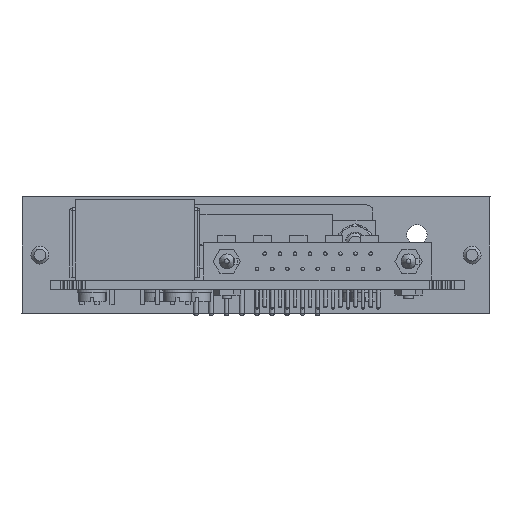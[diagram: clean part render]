
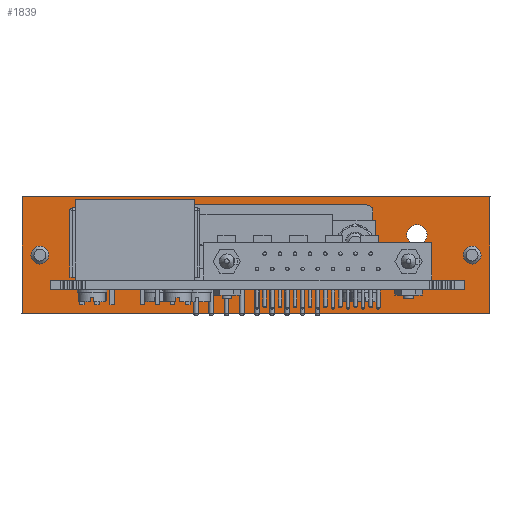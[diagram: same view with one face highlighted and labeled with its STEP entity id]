
A CAD part, left-side view. The second image highlights one B-rep face of the part: STEP entity #1839.
In plain terms, the highlighted planar face has unit normal (-1, 0, 0).
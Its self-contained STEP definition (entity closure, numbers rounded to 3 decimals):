
#1839=ADVANCED_FACE('',(#16015,#16017,#16019,#16021,#16023,#16025),#16027,.T.);
#16015=FACE_BOUND('',#16016,.T.);
#16016=EDGE_LOOP('',(#27494,#27495,#27496,#27497));
#16017=FACE_BOUND('',#16018,.T.);
#16018=EDGE_LOOP('',(#27498,#27499,#27500,#27501,#27502,#27503,#27504,#27505));
#16019=FACE_BOUND('',#16020,.T.);
#16020=EDGE_LOOP('',(#27506));
#16021=FACE_BOUND('',#16022,.T.);
#16022=EDGE_LOOP('',(#27507));
#16023=FACE_BOUND('',#16024,.T.);
#16024=EDGE_LOOP('',(#27508));
#16025=FACE_BOUND('',#16026,.T.);
#16026=EDGE_LOOP('',(#27509));
#16027=PLANE('',#16028);
#16028=AXIS2_PLACEMENT_3D('',#16029,#16030,#16031);
#16029=CARTESIAN_POINT('',(-86.106,51.439,4.98));
#16030=DIRECTION('',(-1.,0.,0.));
#16031=DIRECTION('',(0.,0.,1.));
#27494=ORIENTED_EDGE('',*,*,#34695,.T.);
#27495=ORIENTED_EDGE('',*,*,#34696,.T.);
#27496=ORIENTED_EDGE('',*,*,#34697,.T.);
#27497=ORIENTED_EDGE('',*,*,#34698,.T.);
#27498=ORIENTED_EDGE('',*,*,#34692,.T.);
#27499=ORIENTED_EDGE('',*,*,#34446,.T.);
#27500=ORIENTED_EDGE('',*,*,#34442,.T.);
#27501=ORIENTED_EDGE('',*,*,#34440,.T.);
#27502=ORIENTED_EDGE('',*,*,#34672,.T.);
#27503=ORIENTED_EDGE('',*,*,#34699,.T.);
#27504=ORIENTED_EDGE('',*,*,#34700,.T.);
#27505=ORIENTED_EDGE('',*,*,#34701,.T.);
#27506=ORIENTED_EDGE('',*,*,#34702,.T.);
#27507=ORIENTED_EDGE('',*,*,#34703,.T.);
#27508=ORIENTED_EDGE('',*,*,#34704,.T.);
#27509=ORIENTED_EDGE('',*,*,#34705,.T.);
#34440=EDGE_CURVE('',#38623,#38621,#38624,.T.);
#34442=EDGE_CURVE('',#38626,#38623,#38627,.T.);
#34446=EDGE_CURVE('',#38633,#38626,#38634,.T.);
#34672=EDGE_CURVE('',#38621,#38993,#38994,.T.);
#34692=EDGE_CURVE('',#39029,#38633,#39030,.T.);
#34695=EDGE_CURVE('',#39034,#39035,#39036,.T.);
#34696=EDGE_CURVE('',#39035,#39037,#39038,.T.);
#34697=EDGE_CURVE('',#39037,#39039,#39040,.T.);
#34698=EDGE_CURVE('',#39039,#39034,#39041,.T.);
#34699=EDGE_CURVE('',#38993,#39042,#39043,.T.);
#34700=EDGE_CURVE('',#39042,#39044,#39045,.T.);
#34701=EDGE_CURVE('',#39044,#39029,#39046,.T.);
#34702=EDGE_CURVE('',#39047,#39047,#39048,.T.);
#34703=EDGE_CURVE('',#39049,#39049,#39050,.T.);
#34704=EDGE_CURVE('',#39051,#39051,#39052,.T.);
#34705=EDGE_CURVE('',#39053,#39053,#39054,.T.);
#38621=VERTEX_POINT('',#46169);
#38623=VERTEX_POINT('',#46173);
#38624=CIRCLE('',#46174,1.);
#38626=VERTEX_POINT('',#46181);
#38627=LINE('',#46182,#46183);
#38633=VERTEX_POINT('',#46198);
#38634=CIRCLE('',#46199,1.);
#38993=VERTEX_POINT('',#47068);
#38994=LINE('',#47069,#47070);
#39029=VERTEX_POINT('',#47150);
#39030=LINE('',#47151,#47152);
#39034=VERTEX_POINT('',#47161);
#39035=VERTEX_POINT('',#47162);
#39036=LINE('',#47163,#47164);
#39037=VERTEX_POINT('',#47166);
#39038=LINE('',#47167,#47168);
#39039=VERTEX_POINT('',#47170);
#39040=LINE('',#47171,#47172);
#39041=LINE('',#47174,#47175);
#39042=VERTEX_POINT('',#47177);
#39043=CIRCLE('',#47178,1.);
#39044=VERTEX_POINT('',#47182);
#39045=LINE('',#47183,#47184);
#39046=CIRCLE('',#47186,1.);
#39047=VERTEX_POINT('',#47190);
#39048=CIRCLE('',#47191,1.7);
#39049=VERTEX_POINT('',#47195);
#39050=CIRCLE('',#47196,1.229);
#39051=VERTEX_POINT('',#47200);
#39052=CIRCLE('',#47201,1.229);
#39053=VERTEX_POINT('',#47205);
#39054=CIRCLE('',#47206,1.7);
#46169=CARTESIAN_POINT('',(-86.106,110.289,11.58));
#46173=CARTESIAN_POINT('',(-86.106,109.289,10.58));
#46174=AXIS2_PLACEMENT_3D('',#46175,#46176,#46177);
#46175=CARTESIAN_POINT('',(-86.106,109.289,11.58));
#46176=DIRECTION('',(1.,0.,0.));
#46177=DIRECTION('',(0.,0.,-1.));
#46181=CARTESIAN_POINT('',(-86.106,72.089,10.58));
#46182=CARTESIAN_POINT('',(-86.106,72.089,10.58));
#46183=VECTOR('',#46184,1.);
#46184=DIRECTION('',(0.,1.,0.));
#46198=CARTESIAN_POINT('',(-86.106,71.089,11.58));
#46199=AXIS2_PLACEMENT_3D('',#46200,#46201,#46202);
#46200=CARTESIAN_POINT('',(-86.106,72.089,11.58));
#46201=DIRECTION('',(1.,0.,0.));
#46202=DIRECTION('',(0.,-1.,0.));
#47068=CARTESIAN_POINT('',(-86.106,110.289,22.18));
#47069=CARTESIAN_POINT('',(-86.106,110.289,11.58));
#47070=VECTOR('',#47071,1.);
#47071=DIRECTION('',(0.,0.,1.));
#47150=CARTESIAN_POINT('',(-86.106,71.089,22.18));
#47151=CARTESIAN_POINT('',(-86.106,71.089,22.18));
#47152=VECTOR('',#47153,1.);
#47153=DIRECTION('',(0.,0.,-1.));
#47161=CARTESIAN_POINT('',(-86.106,51.439,24.58));
#47162=CARTESIAN_POINT('',(-86.106,129.939,24.58));
#47163=CARTESIAN_POINT('',(-86.106,51.439,24.58));
#47164=VECTOR('',#47165,1.);
#47165=DIRECTION('',(0.,1.,0.));
#47166=CARTESIAN_POINT('',(-86.106,129.939,4.98));
#47167=CARTESIAN_POINT('',(-86.106,129.939,24.58));
#47168=VECTOR('',#47169,1.);
#47169=DIRECTION('',(0.,0.,-1.));
#47170=CARTESIAN_POINT('',(-86.106,51.439,4.98));
#47171=CARTESIAN_POINT('',(-86.106,129.939,4.98));
#47172=VECTOR('',#47173,1.);
#47173=DIRECTION('',(0.,-1.,0.));
#47174=CARTESIAN_POINT('',(-86.106,51.439,4.98));
#47175=VECTOR('',#47176,1.);
#47176=DIRECTION('',(0.,0.,1.));
#47177=CARTESIAN_POINT('',(-86.106,109.289,23.18));
#47178=AXIS2_PLACEMENT_3D('',#47179,#47180,#47181);
#47179=CARTESIAN_POINT('',(-86.106,109.289,22.18));
#47180=DIRECTION('',(1.,0.,0.));
#47181=DIRECTION('',(0.,1.,0.));
#47182=CARTESIAN_POINT('',(-86.106,72.089,23.18));
#47183=CARTESIAN_POINT('',(-86.106,109.289,23.18));
#47184=VECTOR('',#47185,1.);
#47185=DIRECTION('',(0.,-1.,0.));
#47186=AXIS2_PLACEMENT_3D('',#47187,#47188,#47189);
#47187=CARTESIAN_POINT('',(-86.106,72.089,22.18));
#47188=DIRECTION('',(1.,0.,0.));
#47189=DIRECTION('',(0.,0.,1.));
#47190=CARTESIAN_POINT('',(-86.106,63.689,16.48));
#47191=AXIS2_PLACEMENT_3D('',#47192,#47193,#47194);
#47192=CARTESIAN_POINT('',(-86.106,63.689,18.18));
#47193=DIRECTION('',(1.,0.,0.));
#47194=DIRECTION('',(0.,0.,-1.));
#47195=CARTESIAN_POINT('',(-86.106,54.439,13.551));
#47196=AXIS2_PLACEMENT_3D('',#47197,#47198,#47199);
#47197=CARTESIAN_POINT('',(-86.106,54.439,14.78));
#47198=DIRECTION('',(1.,0.,0.));
#47199=DIRECTION('',(0.,0.,-1.));
#47200=CARTESIAN_POINT('',(-86.106,126.939,13.551));
#47201=AXIS2_PLACEMENT_3D('',#47202,#47203,#47204);
#47202=CARTESIAN_POINT('',(-86.106,126.939,14.78));
#47203=DIRECTION('',(1.,0.,0.));
#47204=DIRECTION('',(0.,0.,-1.));
#47205=CARTESIAN_POINT('',(-86.106,63.689,11.38));
#47206=AXIS2_PLACEMENT_3D('',#47207,#47208,#47209);
#47207=CARTESIAN_POINT('',(-86.106,63.689,13.08));
#47208=DIRECTION('',(1.,0.,0.));
#47209=DIRECTION('',(0.,0.,-1.));
